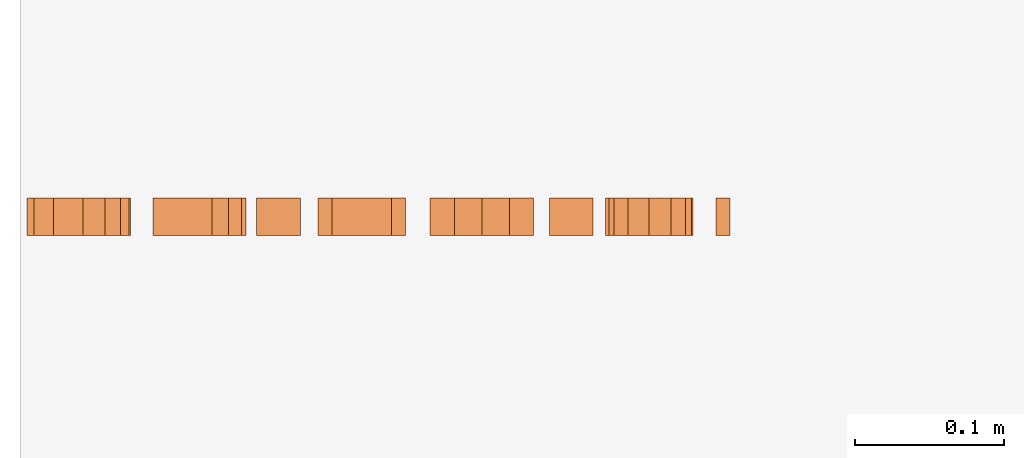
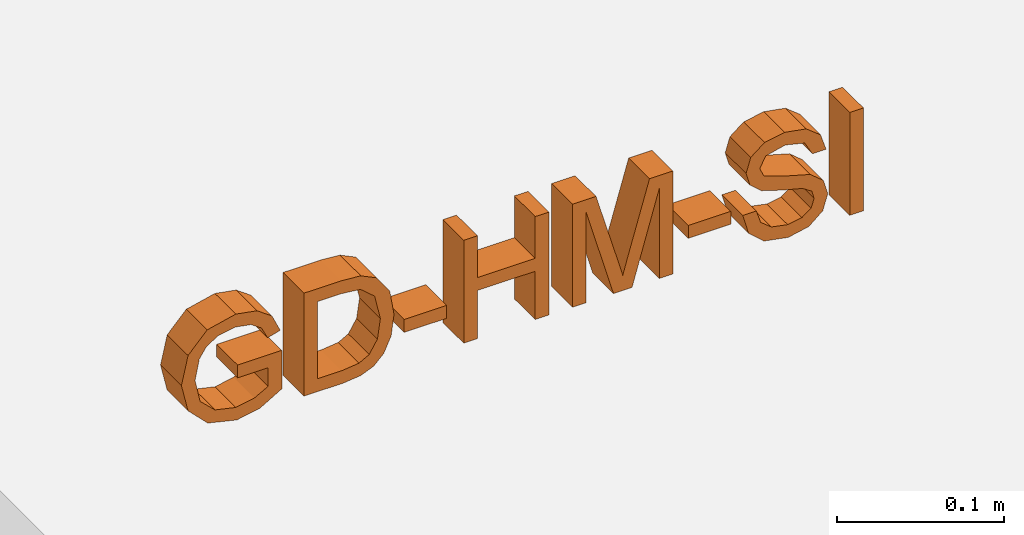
# Not in any storey, part 2 of 2: 1 proxy.
"""IFC4 model written with IfcOpenShell, lengths in metres."""

from ifc_helpers import new_model, entity, si_unit, converted_unit, derived_unit, direction, frame, origin, place, context, subcontext, project, spatial, indexed_curve, outline, extrude, type_object, element, save


model = new_model("IFC4")

# Units and contexts
model_context = context("Model", 3, precision=1e-05, world=origin(), true_north=direction((6.123031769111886e-17, 1.0)))
body_context = subcontext(model_context, "Body", "Model", "MODEL_VIEW")
ifc_project = project(units=[si_unit("LENGTHUNIT", "METRE"), si_unit("AREAUNIT", "SQUARE_METRE"), si_unit("VOLUMEUNIT", "CUBIC_METRE"), converted_unit("PLANEANGLEUNIT", "DEGREE", entity("IfcRatioMeasure", 0.017453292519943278), si_unit("PLANEANGLEUNIT", "RADIAN"), dimensions=[0, 0, 0, 0, 0, 0, 0]), si_unit("MASSUNIT", "GRAM", prefix="KILO"), derived_unit("MASSDENSITYUNIT", [(si_unit("MASSUNIT", "GRAM", prefix="KILO"), 1), (si_unit("LENGTHUNIT", "METRE"), -3)]), derived_unit("IONCONCENTRATIONUNIT", [(si_unit("MASSUNIT", "GRAM", prefix="KILO"), 1), (si_unit("LENGTHUNIT", "METRE"), -3)]), derived_unit("MOMENTOFINERTIAUNIT", [(si_unit("LENGTHUNIT", "METRE"), 4)]), si_unit("TIMEUNIT", "SECOND"), si_unit("FREQUENCYUNIT", "HERTZ"), si_unit("THERMODYNAMICTEMPERATUREUNIT", "DEGREE_CELSIUS"), derived_unit("THERMALTRANSMITTANCEUNIT", [(si_unit("MASSUNIT", "GRAM", prefix="KILO"), 1), (si_unit("THERMODYNAMICTEMPERATUREUNIT", "KELVIN"), -1), (si_unit("TIMEUNIT", "SECOND"), -3)]), derived_unit("THERMALCONDUCTANCEUNIT", [(si_unit("MASSUNIT", "GRAM", prefix="KILO"), 1), (si_unit("THERMODYNAMICTEMPERATUREUNIT", "KELVIN"), -1), (si_unit("TIMEUNIT", "SECOND"), -3), (si_unit("LENGTHUNIT", "METRE"), 1)]), derived_unit("VOLUMETRICFLOWRATEUNIT", [(si_unit("LENGTHUNIT", "METRE"), 3), (si_unit("TIMEUNIT", "SECOND"), -1)]), derived_unit("MASSFLOWRATEUNIT", [(si_unit("MASSUNIT", "GRAM", prefix="KILO"), 1), (si_unit("TIMEUNIT", "SECOND"), -1)]), derived_unit("ROTATIONALFREQUENCYUNIT", [(si_unit("TIMEUNIT", "SECOND"), -1)]), si_unit("ELECTRICCURRENTUNIT", "AMPERE"), si_unit("ELECTRICVOLTAGEUNIT", "VOLT"), si_unit("POWERUNIT", "WATT"), si_unit("FORCEUNIT", "NEWTON", prefix="KILO"), si_unit("ILLUMINANCEUNIT", "LUX"), si_unit("LUMINOUSFLUXUNIT", "LUMEN"), si_unit("LUMINOUSINTENSITYUNIT", "CANDELA"), derived_unit("USERDEFINED", [(si_unit("MASSUNIT", "GRAM", prefix="KILO"), -1), (si_unit("LENGTHUNIT", "METRE"), -2), (si_unit("TIMEUNIT", "SECOND"), 3), (si_unit("LUMINOUSFLUXUNIT", "LUMEN"), 1)]), derived_unit("USERDEFINED", [(si_unit("MASSUNIT", "GRAM", prefix="KILO"), 1), (si_unit("TIMEUNIT", "SECOND"), -3), (si_unit("LENGTHUNIT", "METRE"), 3), (si_unit("ELECTRICCURRENTUNIT", "AMPERE"), -2)]), derived_unit("SOUNDPOWERUNIT", [(si_unit("MASSUNIT", "GRAM", prefix="KILO"), 1), (si_unit("TIMEUNIT", "SECOND"), -3), (si_unit("LENGTHUNIT", "METRE"), 2)]), derived_unit("SOUNDPRESSUREUNIT", [(si_unit("MASSUNIT", "GRAM", prefix="KILO"), 1), (si_unit("LENGTHUNIT", "METRE"), -1), (si_unit("TIMEUNIT", "SECOND"), -2)]), derived_unit("LINEARVELOCITYUNIT", [(si_unit("LENGTHUNIT", "METRE"), 1), (si_unit("TIMEUNIT", "SECOND"), -1)]), si_unit("PRESSUREUNIT", "PASCAL"), derived_unit("USERDEFINED", [(si_unit("MASSUNIT", "GRAM", prefix="KILO"), 1), (si_unit("LENGTHUNIT", "METRE"), -2), (si_unit("TIMEUNIT", "SECOND"), -2)]), derived_unit("LINEARFORCEUNIT", [(si_unit("MASSUNIT", "GRAM", prefix="KILO"), 1), (si_unit("TIMEUNIT", "SECOND"), -2)]), derived_unit("PLANARFORCEUNIT", [(si_unit("MASSUNIT", "GRAM", prefix="KILO"), 1), (si_unit("LENGTHUNIT", "METRE"), -1), (si_unit("TIMEUNIT", "SECOND"), -2)]), derived_unit("SPECIFICHEATCAPACITYUNIT", [(si_unit("THERMODYNAMICTEMPERATUREUNIT", "KELVIN"), -1), (si_unit("LENGTHUNIT", "METRE"), 2), (si_unit("TIMEUNIT", "SECOND"), -2)]), derived_unit("HEATINGVALUEUNIT", [(si_unit("LENGTHUNIT", "METRE"), 2), (si_unit("TIMEUNIT", "SECOND"), -2)]), derived_unit("VAPORPERMEABILITYUNIT", [(si_unit("LENGTHUNIT", "METRE"), -1), (si_unit("TIMEUNIT", "SECOND"), 1)]), derived_unit("DYNAMICVISCOSITYUNIT", [(si_unit("MASSUNIT", "GRAM", prefix="KILO"), 1), (si_unit("TIMEUNIT", "SECOND"), -1), (si_unit("LENGTHUNIT", "METRE"), -1)]), derived_unit("THERMALEXPANSIONCOEFFICIENTUNIT", [(si_unit("THERMODYNAMICTEMPERATUREUNIT", "KELVIN"), -1)]), derived_unit("MODULUSOFELASTICITYUNIT", [(si_unit("MASSUNIT", "GRAM", prefix="KILO"), 1), (si_unit("LENGTHUNIT", "METRE"), -1), (si_unit("TIMEUNIT", "SECOND"), -2)]), derived_unit("ISOTHERMALMOISTURECAPACITYUNIT", [(si_unit("LENGTHUNIT", "METRE"), 3), (si_unit("MASSUNIT", "GRAM", prefix="KILO"), -1)]), derived_unit("MOISTUREDIFFUSIVITYUNIT", [(si_unit("TIMEUNIT", "SECOND"), -1), (si_unit("LENGTHUNIT", "METRE"), 2)])], contexts=[model_context])

# Site
site_placement = place(None, origin())
site = spatial("IfcSite", under=ifc_project, at=site_placement, Name="Default", CompositionType="ELEMENT")

# Proxy
building_element_proxy_type = type_object("IfcBuildingElementProxyType", Name="Modelltext:075mm Arial", PredefinedType="NOTDEFINED")
proxy_placement = place(site_placement, origin())
element("IfcBuildingElementProxy", 1, at=proxy_placement, inside=site, type_object=building_element_proxy_type, Name="Modelltext:075mm Arial", ObjectType="Modelltext:075mm Arial", PredefinedType="NOTDEFINED", context=body_context, shape_type="SweptSolid", body=[
    extrude(outline(indexed_curve([(-0.009631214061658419, 0.0014347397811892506), (-0.00021343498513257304, 0.0014347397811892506), (-0.00021343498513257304, 0.03204252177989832), (-0.02837480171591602, 0.03204252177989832), (-0.0372591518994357, 0.01693176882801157), (-0.04023899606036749, 0.0009564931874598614), (-0.035502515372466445, -0.019157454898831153), (-0.02178971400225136, -0.0328058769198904), (-0.0017585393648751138, -0.03741359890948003), (0.01872329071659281, -0.0328242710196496), (0.032840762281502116, -0.019626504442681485), (0.03745768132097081, 0.00020233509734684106), (0.034781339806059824, 0.014936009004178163), (0.027331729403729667, 0.02526429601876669), (0.014869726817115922, 0.030957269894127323), (0.0124233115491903, 0.02227525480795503), (0.02113291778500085, 0.017980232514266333), (0.02615450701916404, 0.010640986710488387), (0.028039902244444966, 5.518229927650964e-05), (0.026007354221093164, -0.012002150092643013), (0.020673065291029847, -0.020205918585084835), (0.013416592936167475, -0.025052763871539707), (-0.0013722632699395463, -0.027995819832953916), (-0.01778899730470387, -0.02445495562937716), (-0.027611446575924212, -0.014154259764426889), (-0.030821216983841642, 0.00020233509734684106), (-0.028402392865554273, 0.013087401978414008), (-0.02324284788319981, 0.022624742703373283), (-0.009631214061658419, 0.022624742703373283), (-0.009631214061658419, 0.0014347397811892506)], self_intersect=False)), frame((8.45322918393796, 42.834392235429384, 2.1354690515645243), z_axis=(0.0, 1.0, 0.0), x_axis=(0.0, 0.0, 1.0)), (0.0, 0.0, 1.0), 0.025000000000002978),
    extrude(outline(indexed_curve([(-0.03575046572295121, -0.039028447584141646), (0.039591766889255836, -0.039028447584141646), (0.039591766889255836, -0.013037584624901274), (0.0385065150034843, 0.0004085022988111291), (0.0331170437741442, 0.011481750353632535), (0.02024117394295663, 0.020402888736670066), (0.0023253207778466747, 0.023364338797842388), (-0.012877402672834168, 0.021359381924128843), (-0.023849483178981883, 0.01620903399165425), (-0.030682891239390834, 0.009329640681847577), (-0.03446287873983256, 0.00032572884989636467), (-0.03575046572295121, -0.011786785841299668), (-0.03575046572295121, -0.039028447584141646)], self_intersect=False), holes=[indexed_curve([(-0.02633268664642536, -0.02961066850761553), (-0.02633268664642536, -0.01294561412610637), (-0.024971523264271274, -0.0008239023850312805), (-0.021127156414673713, 0.006165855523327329), (-0.011773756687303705, 0.011895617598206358), (0.0024724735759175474, 0.013946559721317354), (0.020314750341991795, 0.009927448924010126), (0.02866567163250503, 0.00015098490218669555), (0.03017398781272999, -0.013203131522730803), (0.03017398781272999, -0.02961066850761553), (-0.02633268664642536, -0.02961066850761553)], self_intersect=False)]), frame((8.539604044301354, 42.834392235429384, 2.132157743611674), z_axis=(0.0, 1.0, 0.0), x_axis=(0.0, 0.0, 1.0)), (0.0, 0.0, 1.0), 0.025000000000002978),
    extrude(outline(indexed_curve([(-0.01250000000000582, -0.014715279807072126), (0.01249999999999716, -0.014715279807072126), (0.01249999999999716, 0.014715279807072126), (-0.01250000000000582, 0.014715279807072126), (-0.01250000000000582, -0.014715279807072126)], self_intersect=False)), frame((8.584746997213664, 42.84689223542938, 2.1187745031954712), z_axis=(0.0, 0.0, 1.0), x_axis=(0.0, 1.0, 0.0)), (0.0, 0.0, 1.0), 0.009417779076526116),
    extrude(outline(indexed_curve([(-0.03845593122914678, -0.02943055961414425), (0.03688630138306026, -0.02943055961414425), (0.03688630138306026, -0.020012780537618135), (0.006278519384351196, -0.020012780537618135), (0.006278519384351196, 0.020012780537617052), (0.03688630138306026, 0.020012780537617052), (0.03688630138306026, 0.029430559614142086), (-0.03845593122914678, 0.029430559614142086), (-0.03845593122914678, 0.020012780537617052), (-0.00313925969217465, 0.020012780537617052), (-0.00313925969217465, -0.020012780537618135), (-0.03845593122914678, -0.020012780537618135), (-0.03845593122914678, -0.02943055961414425)], self_intersect=False)), frame((8.640665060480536, 42.834392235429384, 2.1348632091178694), z_axis=(0.0, 1.0, 0.0), x_axis=(0.0, 0.0, 1.0)), (0.0, 0.0, 1.0), 0.025000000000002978),
    extrude(outline(indexed_curve([(-0.03265075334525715, -0.034745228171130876), (0.04269147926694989, -0.034745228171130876), (0.04269147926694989, -0.01854002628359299), (-0.010412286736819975, -0.0031257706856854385), (-0.021503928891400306, -1.7167826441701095e-05), (-0.009492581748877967, 0.0033489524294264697), (0.04269147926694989, 0.01850569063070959), (0.04269147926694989, 0.03471089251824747), (-0.03265075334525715, 0.03471089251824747), (-0.03265075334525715, 0.02529311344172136), (0.03327370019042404, 0.02529311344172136), (-0.03265075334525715, 0.006365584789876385), (-0.03265075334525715, -0.006399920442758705), (0.03327370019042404, -0.02532744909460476), (-0.03265075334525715, -0.02532744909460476), (-0.03265075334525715, -0.034745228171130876)], self_intersect=False)), frame((8.72132196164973, 42.834392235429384, 2.1290580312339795), z_axis=(0.0, 1.0, 0.0), x_axis=(0.0, 0.0, 1.0)), (0.0, 0.0, 1.0), 0.025000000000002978),
    extrude(outline(indexed_curve([(-0.01250000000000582, -0.014715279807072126), (0.01249999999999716, -0.014715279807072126), (0.01249999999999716, 0.014715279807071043), (-0.01250000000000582, 0.014715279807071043), (-0.01250000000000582, -0.014715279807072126)], self_intersect=False)), frame((8.78134313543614, 42.84689223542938, 2.1187745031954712), z_axis=(0.0, 0.0, 1.0), x_axis=(0.0, 1.0, 0.0)), (0.0, 0.0, 1.0), 0.009417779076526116),
    extrude(outline(indexed_curve([(-0.030292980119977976, 0.011054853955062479), (-0.02087520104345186, 0.011054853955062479), (-0.01784017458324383, 0.020481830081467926), (-0.010427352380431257, 0.02644151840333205), (0.0008666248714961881, 0.028713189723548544), (0.010707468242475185, 0.026993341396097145), (0.017062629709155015, 0.02226605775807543), (0.019150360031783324, 0.015947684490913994), (0.017586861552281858, 0.010070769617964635), (0.011185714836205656, 0.005794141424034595), (-0.0025270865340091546, 0.0021980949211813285), (-0.017288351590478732, -0.0024464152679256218), (-0.02529898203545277, -0.009454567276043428), (-0.027938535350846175, -0.018817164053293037), (-0.024673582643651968, -0.02947654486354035), (-0.015136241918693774, -0.036999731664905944), (-0.0011751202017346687, -0.03956570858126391), (0.0137241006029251, -0.036880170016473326), (0.023656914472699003, -0.02898910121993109), (0.027390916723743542, -0.01719848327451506), (0.017973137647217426, -0.01719848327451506), (0.012638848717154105, -0.026873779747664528), (-0.0008072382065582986, -0.030147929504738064), (-0.014290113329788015, -0.02691056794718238), (-0.01852075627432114, -0.019093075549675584), (-0.015522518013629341, -0.012563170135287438), (-0.00014505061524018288, -0.007302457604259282), (0.016520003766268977, -0.002575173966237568), (0.02563428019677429, 0.005058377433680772), (0.028568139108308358, 0.01570856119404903), (0.025192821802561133, 0.026974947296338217), (0.015480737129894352, 0.03519710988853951), (0.001234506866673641, 0.03813096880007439), (-0.015586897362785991, 0.03496718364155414), (-0.026227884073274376, 0.025439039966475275), (-0.030292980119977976, 0.011054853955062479)], self_intersect=False)), frame((8.83459195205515, 42.834392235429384, 2.1333610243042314), z_axis=(0.0, 1.0, 0.0), x_axis=(1.0, 0.0, 0.0)), (0.0, 0.0, 1.0), 0.025000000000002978),
    extrude(outline(indexed_curve([(-0.01250000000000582, -0.004708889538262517), (0.01249999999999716, -0.004708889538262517), (0.01249999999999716, 0.0047088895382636), (-0.01250000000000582, 0.0047088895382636), (-0.01250000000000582, -0.004708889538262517)], self_intersect=False)), frame((8.883172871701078, 42.84689223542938, 2.0964072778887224), z_axis=(0.0, 0.0, 1.0), x_axis=(0.0, 1.0, 0.0)), (0.0, 0.0, 1.0), 0.07534223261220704),
])

save(model, "model.ifc")
